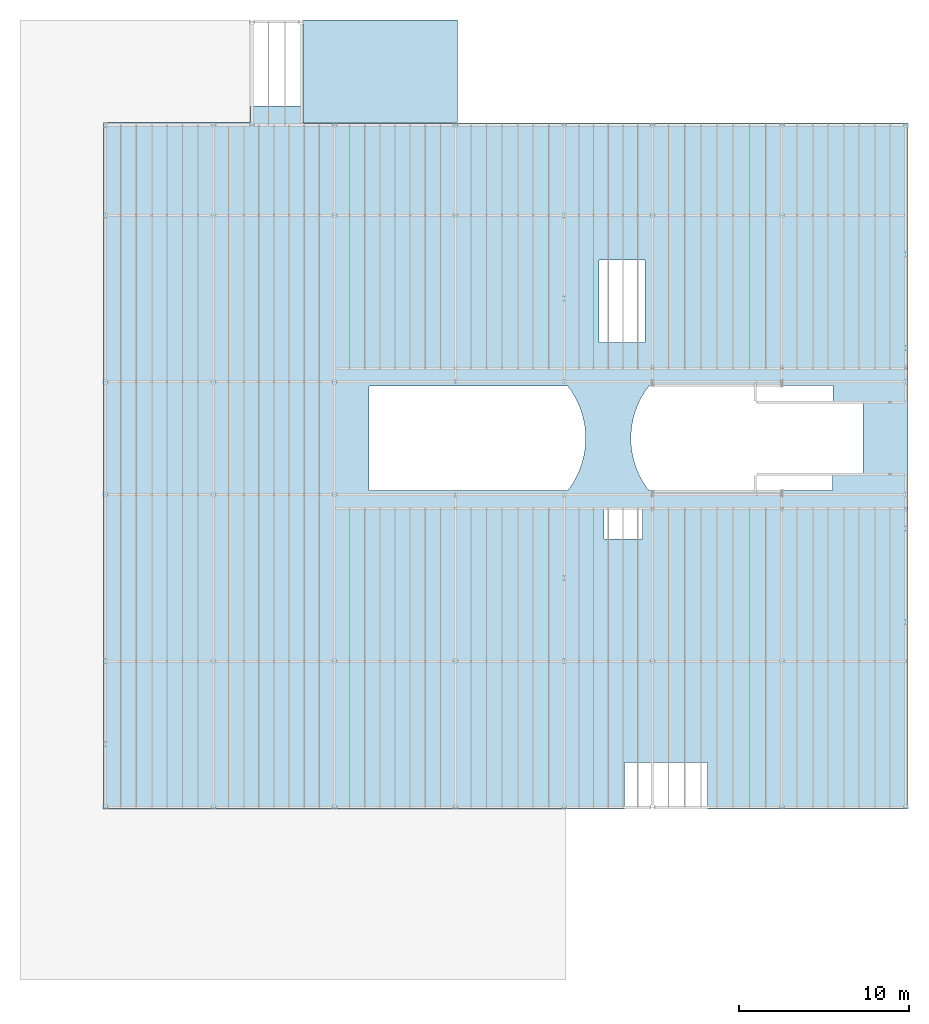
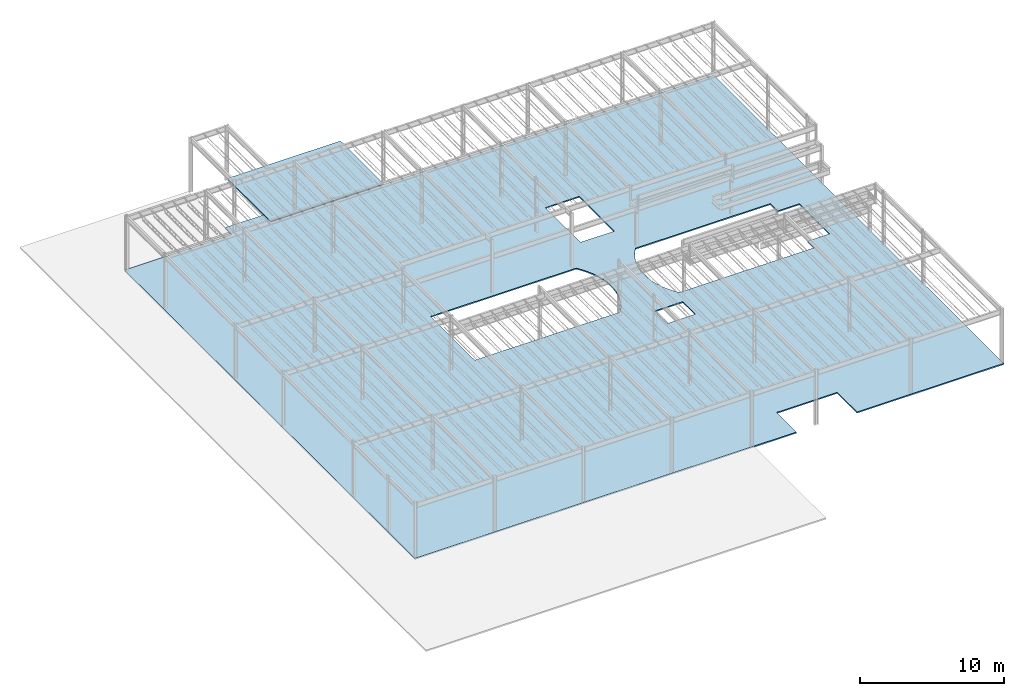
# One storey, part 19 of 119: 2 slabs, 4 openings, 1 element without a shape of its own.
"""IFC2X3 building model written with IfcOpenShell, lengths in metres."""

import ifcopenshell
import ifcopenshell.guid

model = None  # the IFC model being written
_history = None  # IfcOwnerHistory: only IFC2X3 demands one
_inside = {}  # id of a spatial element -> (the spatial element, [elements in it])
_under = {}  # id of a project, library or spatial element -> (it, [spatial elements below it])
_declared = {}  # id of a project -> (the project, [libraries it declares])
_typed = {}  # id of a type object -> (the type object, [elements of that type])
_made_of = {}  # id of a material, layer set ... -> (it, [elements and type objects made of it])


def new_model(schema):
    """Start an empty IFC model of exactly this schema.

    Asked for "IFC4X3", IfcOpenShell would pick the latest addendum, in which some entities
    have other attributes; the version numbers below select the first issue.
    IFC2X3 requires an IfcOwnerHistory on every rooted entity: one is made here for all.
    """
    global model, _history
    if schema == "IFC4X3":
        model = ifcopenshell.file(schema_version=(4, 3, 0, 0))
    else:
        model = ifcopenshell.file(schema=schema)
    _inside.clear()
    _under.clear()
    _declared.clear()
    _typed.clear()
    _made_of.clear()
    _history = None
    if model.schema == "IFC2X3":
        org = make("IfcOrganization", Name="unknown")
        user = make(
            "IfcPersonAndOrganization",
            ThePerson=make("IfcPerson", FamilyName="unknown"),
            TheOrganization=org,
        )
        app = make(
            "IfcApplication",
            ApplicationDeveloper=org,
            Version="unknown",
            ApplicationFullName="unknown",
            ApplicationIdentifier="unknown",
        )
        _history = make(
            "IfcOwnerHistory",
            OwningUser=user,
            OwningApplication=app,
            ChangeAction="ADDED",
            CreationDate=0,
        )
    return model


def make(cls, **values):
    """One entity of the class cls with the attributes given. An attribute that is None is left unset."""
    return model.create_entity(
        cls, **{name: value for name, value in values.items() if value is not None}
    )


def entity(cls, *values):
    """Any entity or typed value of the class cls, its attributes in the order of the schema. None: left unset."""
    e = model.create_entity(cls)
    for i, value in enumerate(values):
        if value is not None:
            e[i] = value
    return e


def rooted(cls, **values):
    """An entity with a GlobalId (a new one), such as an element, a storey or a relation."""
    return make(cls, GlobalId=ifcopenshell.guid.new(), OwnerHistory=_history, **values)


def si_unit(unit_type, name, prefix=None):
    """IfcSIUnit, for example si_unit("LENGTHUNIT", "METRE", prefix="MILLI")."""
    return make("IfcSIUnit", UnitType=unit_type, Prefix=prefix, Name=name)


def converted_unit(unit_type, name, factor, base, dimensions=None, offset=None):
    """IfcConversionBasedUnit, such as the inch: factor (a typed value) times the base unit."""
    return make(
        "IfcConversionBasedUnit"
        if offset is None
        else "IfcConversionBasedUnitWithOffset",
        ConversionOffset=offset,
        Dimensions=None
        if dimensions is None
        else entity("IfcDimensionalExponents", *dimensions),
        UnitType=unit_type,
        Name=name,
        ConversionFactor=make(
            "IfcMeasureWithUnit", ValueComponent=factor, UnitComponent=base
        ),
    )


def assignment(units):
    """IfcUnitAssignment: the units of a project."""
    return None if units is None else make("IfcUnitAssignment", Units=units)


def point(xyz):
    """IfcCartesianPoint."""
    return None if xyz is None else make("IfcCartesianPoint", Coordinates=xyz)


def direction(xyz):
    """IfcDirection."""
    return None if xyz is None else make("IfcDirection", DirectionRatios=xyz)


def frame(location, z_axis=None, x_axis=None):
    """IfcAxis2Placement3D, a coordinate frame: its origin and axes. An axis left out is left unset."""
    return make(
        "IfcAxis2Placement3D",
        Location=point(location),
        Axis=direction(z_axis),
        RefDirection=direction(x_axis),
    )


def frame_2d(location, x_axis=None):
    """IfcAxis2Placement2D, a coordinate frame in the plane: its origin and x axis."""
    return make(
        "IfcAxis2Placement2D", Location=point(location), RefDirection=direction(x_axis)
    )


def origin():
    """The frame at (0, 0, 0) with its axes left unset."""
    return frame((0.0, 0.0, 0.0))


def origin_2d_with_axis():
    """The frame at (0, 0) in the plane with the x axis (1, 0) written out."""
    return frame_2d((0.0, 0.0), x_axis=(1.0, 0.0))


def place(relative_to, where):
    """IfcLocalPlacement: puts the frame where relative to a parent placement (None: the world)."""
    return make(
        "IfcLocalPlacement", PlacementRelTo=relative_to, RelativePlacement=where
    )


def context(
    kind, dimensions, precision=None, world=None, true_north=None, identifier=None
):
    """IfcGeometricRepresentationContext, for example the 3D "Model" context."""
    return make(
        "IfcGeometricRepresentationContext",
        ContextIdentifier=identifier,
        ContextType=kind,
        CoordinateSpaceDimension=dimensions,
        Precision=precision,
        WorldCoordinateSystem=world,
        TrueNorth=true_north,
    )


def project(units=None, contexts=None):
    """IfcProject with its units and contexts."""
    return rooted(
        "IfcProject",
        Name="project",
        RepresentationContexts=contexts,
        UnitsInContext=assignment(units),
    )


def spatial(cls, under=None, at=None, **own):
    """A site, building, storey or space (cls), placed at a placement, below another one or the project."""
    s = rooted(cls, ObjectPlacement=at, **own)
    if under is not None:
        _under.setdefault(under.id(), (under, []))[1].append(s)
    return s


def polyline(points):
    """IfcPolyline through the points."""
    return make("IfcPolyline", Points=[point(p) for p in points])


def circle_curve(where, radius):
    """IfcCircle in the frame where."""
    return make("IfcCircle", Position=where, Radius=radius)


def parameter(value):
    """IfcParameterValue: where a trimmed curve begins or ends, as a parameter of its basis curve."""
    return model.create_entity("IfcParameterValue", value)


def trimmed(basis, trim1, trim2, sense, master):
    """IfcTrimmedCurve: the piece of a basis curve between two trims."""
    return make(
        "IfcTrimmedCurve",
        BasisCurve=basis,
        Trim1=trim1,
        Trim2=trim2,
        SenseAgreement=sense,
        MasterRepresentation=master,
    )


def segment(curve, same_sense, transition):
    """IfcCompositeCurveSegment."""
    return make(
        "IfcCompositeCurveSegment",
        Transition=transition,
        SameSense=same_sense,
        ParentCurve=curve,
    )


def composite_curve(segments, self_intersect=None):
    """IfcCompositeCurve: segments joined end to end."""
    return make("IfcCompositeCurve", Segments=segments, SelfIntersect=self_intersect)


def profile(cls, at=None, kind="AREA", **sizes):
    """A parametric profile (cls). Its sizes go by their IFC names, for example OverallWidth=200.0."""
    return make(cls, ProfileType=kind, Position=at, **sizes)


def rectangle(**sizes):
    """IfcRectangleProfileDef."""
    return profile("IfcRectangleProfileDef", **sizes)


def outline(outer, holes=None, kind="AREA"):
    """IfcArbitraryClosedProfileDef: a profile drawn as a closed curve; with holes, ...WithVoids."""
    if holes is None:
        return make("IfcArbitraryClosedProfileDef", ProfileType=kind, OuterCurve=outer)
    return make(
        "IfcArbitraryProfileDefWithVoids",
        ProfileType=kind,
        OuterCurve=outer,
        InnerCurves=holes,
    )


def extrude(swept, where, along, depth):
    """IfcExtrudedAreaSolid: the profile swept, set in the frame where, extruded along a direction by depth."""
    return make(
        "IfcExtrudedAreaSolid",
        SweptArea=swept,
        Position=where,
        ExtrudedDirection=direction(along),
        Depth=depth,
    )


def shape(context_of_items, identifier, shape_type, items):
    """IfcShapeRepresentation: the items that make up one representation, for example the "Body"."""
    return make(
        "IfcShapeRepresentation",
        ContextOfItems=context_of_items,
        RepresentationIdentifier=identifier,
        RepresentationType=shape_type,
        Items=items,
    )


def material(Name=None, Category=None):
    """IfcMaterial."""
    return make("IfcMaterial", Name=Name, Category=Category)


def layer(
    of_material, thickness, ventilated=None, Name=None, Category=None, Priority=None
):
    """IfcMaterialLayer: one layer of a wall or slab, of a material (None: an air gap)."""
    return make(
        "IfcMaterialLayer",
        Material=of_material,
        LayerThickness=thickness,
        IsVentilated=ventilated,
        Name=Name,
        Category=Category,
        Priority=Priority,
    )


def layer_set(layers, Name=None):
    """IfcMaterialLayerSet."""
    return make("IfcMaterialLayerSet", MaterialLayers=layers, LayerSetName=Name)


def layer_usage(for_layer_set, set_direction, sense, offset, extent=None):
    """IfcMaterialLayerSetUsage: how a layer set lies in its element."""
    return make(
        "IfcMaterialLayerSetUsage",
        ForLayerSet=for_layer_set,
        LayerSetDirection=set_direction,
        DirectionSense=sense,
        OffsetFromReferenceLine=offset,
        ReferenceExtent=extent,
    )


def made_of(thing, what):
    """Note that an element or type object is made of a material, layer set ...; save() writes the relation."""
    if what is not None:
        _made_of.setdefault(what.id(), (what, []))[1].append(thing)
    return thing


def element(
    cls,
    number,
    at=None,
    inside=None,
    cuts=None,
    type_object=None,
    material=None,
    context=None,
    identifier="Body",
    shape_type=None,
    held_by="IfcProductDefinitionShape",
    body=None,
    shapes=None,
    **own,
):
    """One element of the class cls, such as IfcWall. Its Tag is "e" and its number.

    at: its placement. inside: the storey or other place that contains it. cuts: it is an
    opening in that element (IfcRelVoidsElement). A single representation is given by context,
    identifier, shape_type and body (its items); several are given by shapes. held_by: the class
    of the entity that holds the representations. save() writes the other relations.
    """
    e = rooted(cls, Tag="e%d" % number, ObjectPlacement=at, **own)
    if body is not None:
        shapes = [shape(context, identifier, shape_type, body)]
    if shapes is not None:
        e.Representation = make(held_by, Representations=shapes)
    if inside is not None:
        _inside.setdefault(inside.id(), (inside, []))[1].append(e)
    if cuts is not None:
        rooted(
            "IfcRelVoidsElement", RelatingBuildingElement=cuts, RelatedOpeningElement=e
        )
    if type_object is not None:
        _typed.setdefault(type_object.id(), (type_object, []))[1].append(e)
    return made_of(e, material)


def aggregate(whole, parts):
    """IfcRelAggregates: a whole, such as a stair, and the parts it consists of."""
    return rooted("IfcRelAggregates", RelatingObject=whole, RelatedObjects=parts)


def save(model, path):
    """Write the relations noted so far, then the file.

    IfcRelAggregates (storeys below a building ...), IfcRelContainedInSpatialStructure (elements
    in a storey), IfcRelDefinesByType, IfcRelAssociatesMaterial and IfcRelDeclares: one each for
    every whole, place, type object, material and project.
    """
    for whole, parts in _under.values():
        aggregate(whole, parts)
    for where, things in _inside.values():
        rooted(
            "IfcRelContainedInSpatialStructure",
            RelatedElements=things,
            RelatingStructure=where,
        )
    for kind, things in _typed.values():
        rooted("IfcRelDefinesByType", RelatedObjects=things, RelatingType=kind)
    for what, things in _made_of.values():
        rooted("IfcRelAssociatesMaterial", RelatedObjects=things, RelatingMaterial=what)
    for by, libraries in _declared.values():
        rooted("IfcRelDeclares", RelatingContext=by, RelatedDefinitions=libraries)
    model.write(path)


model = new_model("IFC2X3")

# Units and contexts
model_context = context("Model", 3, precision=1e-09, world=origin())
plan_context = context("Plan", 3, precision=1e-09, world=origin())
ifc_project = project(units=[si_unit("LENGTHUNIT", "METRE"), si_unit("AREAUNIT", "SQUARE_METRE"), si_unit("VOLUMEUNIT", "CUBIC_METRE"), converted_unit("PLANEANGLEUNIT", "DEGREE", entity("IfcRatioMeasure", 0.01745329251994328), si_unit("PLANEANGLEUNIT", "RADIAN"), dimensions=[0, 0, 0, 0, 0, 0, 0]), si_unit("TIMEUNIT", "SECOND")], contexts=[model_context, plan_context])

# Site, building, storey
site_placement = place(None, origin())
site = spatial("IfcSite", under=ifc_project, at=site_placement, Name="Default", CompositionType="ELEMENT")
building_placement = place(site_placement, origin())
building = spatial("IfcBuilding", under=site, at=building_placement, CompositionType="ELEMENT")
storey_placement = place(building_placement, frame((0.0, 0.0, 4.570000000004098)))
storey = spatial("IfcBuildingStorey", under=building, at=storey_placement, Name="Second Floor", CompositionType="ELEMENT", Elevation=4.570000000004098)

# Slab, openings
ifc_material_1 = material(Name="Concrete - Cast in Situ Lightweight")
ifc_layer_1 = layer(ifc_material_1, 0.064)
ifc_material_2 = material(Name="Metal - Decking")
ifc_layer_2 = layer(ifc_material_2, 0.038)
ifc_layer_set_1 = layer_set([ifc_layer_1, ifc_layer_2], Name="Floor:64mm Concrete With 38mm Metal Deck")
ifc_layer_usage_1 = layer_usage(ifc_layer_set_1, "AXIS3", "POSITIVE", 0.0)
slab_1_placement = place(storey_placement, frame((-47.11300000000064, 9.92699999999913, -0.1020000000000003)))
slab_1 = element("IfcSlab", 1, at=slab_1_placement, inside=storey, material=ifc_layer_usage_1, Name="Floor:64mm Concrete With 38mm Metal Deck", ObjectType="Floor:64mm Concrete With 38mm Metal Deck", PredefinedType="FLOOR", context=model_context, shape_type="SweptSolid", body=[
    extrude(outline(polyline([(-23.61300000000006, 19.64228096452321), (-23.613, -20.63371903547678), (-11.84200014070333, -20.63371903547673), (-11.84200014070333, -17.8887190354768), (-6.986000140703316, -17.8887190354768), (-6.986000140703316, -20.63371903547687), (23.613, -20.63371903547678), (23.613, 19.67671967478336), (15.0, 19.67671967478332), (15.0, 20.63371903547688), (11.84973888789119, 20.63371903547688), (11.84973888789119, 19.64228096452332), (-23.61300000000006, 19.64228096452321)])), frame((23.613, 20.63371903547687, 0.1020000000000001), z_axis=(0.0, 0.0, -1.0), x_axis=(-1.0, 0.0, 0.0)), (0.0, 0.0, 1.0), 0.1020000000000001),
])
opening_1_placement = place(slab_1_placement, frame((21.43376995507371, 21.76639725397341, 0.1019999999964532)))
element("IfcOpeningElement", 2, at=opening_1_placement, cuts=slab_1, Name="Floor:64mm Concrete With 38mm Metal Deck:2", ObjectType="Opening", context=model_context, shape_type="SweptSolid", body=[
    extrude(outline(composite_curve([segment(trimmed(circle_curve(frame_2d((1.871406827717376, 0.0), x_axis=(1.0, 0.0)), 5.004868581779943), [parameter(322.2886442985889)], [parameter(37.7113557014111)], True, "PARAMETER"), True, "CONTINUOUS"), segment(polyline([(5.83076995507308, 3.061397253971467), (-5.830769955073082, 3.061397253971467)]), True, "CONTINUOUS"), segment(polyline([(-5.830769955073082, 3.061397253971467), (-5.830769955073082, -3.061397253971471)]), True, "CONTINUOUS"), segment(polyline([(-5.830769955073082, -3.061397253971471), (5.83076995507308, -3.061397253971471)]), True, "CONTINUOUS")], self_intersect=False)), frame((0.0, 0.0, 0.0), z_axis=(0.0, 0.0, -1.0), x_axis=(1.0, 0.0, 0.0)), (0.0, 0.0, 1.0), 0.1020000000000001),
])
opening_2_placement = place(slab_1_placement, frame((30.52540000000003, 16.73765000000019, 0.1020000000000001)))
element("IfcOpeningElement", 3, at=opening_2_placement, cuts=slab_1, Name="Floor:64mm Concrete With 38mm Metal Deck:5", ObjectType="Opening", context=model_context, shape_type="SweptSolid", body=[
    extrude(rectangle(XDim=1.74650000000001, YDim=2.267199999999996, at=origin_2d_with_axis()), frame((0.0, 0.0, 0.0), z_axis=(0.0, 0.0, -1.0), x_axis=(0.0, -1.0, 0.0)), (0.0, 0.0, 1.0), 0.1020000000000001),
])
opening_3_placement = place(slab_1_placement, frame((30.45050000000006, 29.81700069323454, 0.1019999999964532)))
element("IfcOpeningElement", 4, at=opening_3_placement, cuts=slab_1, Name="Floor:64mm Concrete With 38mm Metal Deck:4", ObjectType="Opening", context=model_context, shape_type="SweptSolid", body=[
    extrude(rectangle(XDim=4.856000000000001, YDim=2.716999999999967, at=origin_2d_with_axis()), frame((0.0, 0.0, 0.0), z_axis=(0.0, 0.0, -1.0), x_axis=(0.0, -1.0, 0.0)), (0.0, 0.0, 1.0), 0.1020000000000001),
])
opening_4_placement = place(slab_1_placement, frame((40.56745101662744, 21.75710967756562, 0.1019999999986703)))
element("IfcOpeningElement", 5, at=opening_4_placement, cuts=slab_1, Name="Floor:64mm Concrete With 38mm Metal Deck:3", ObjectType="Opening", context=model_context, shape_type="SweptSolid", body=[
    extrude(outline(composite_curve([segment(trimmed(circle_curve(frame_2d((-4.605985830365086, -0.009287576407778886), x_axis=(1.0, 0.0)), 4.989497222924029), [parameter(142.1520371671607)], [parameter(218.2154290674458)], True, "PARAMETER"), True, "CONTINUOUS"), segment(polyline([(-8.52618557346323, -3.095890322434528), (2.275548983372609, -3.095890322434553)]), True, "CONTINUOUS"), segment(polyline([(2.275548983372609, -3.095890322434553), (2.275548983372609, -2.069890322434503)]), True, "CONTINUOUS"), segment(polyline([(2.275548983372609, -2.069890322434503), (4.018945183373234, -2.0698903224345)]), True, "CONTINUOUS"), segment(polyline([(4.018945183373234, -2.0698903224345), (4.018945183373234, 2.113670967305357)]), True, "CONTINUOUS"), segment(polyline([(4.018945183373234, 2.113670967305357), (2.241548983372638, 2.113670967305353)]), True, "CONTINUOUS"), segment(polyline([(2.241548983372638, 2.113670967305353), (2.241548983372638, 3.052109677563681)]), True, "CONTINUOUS"), segment(polyline([(2.241548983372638, 3.052109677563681), (-8.545900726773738, 3.052109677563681)]), True, "CONTINUOUS")], self_intersect=False)), frame((0.0, 0.0, 0.0), z_axis=(0.0, 0.0, -1.0), x_axis=(1.0, 0.0, 0.0)), (0.0, 0.0, 1.0), 0.1020000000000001),
])

# Roof, slab
ifc_material_3 = material(Name="Roofing - EPDM Membrane")
ifc_layer_3 = layer(ifc_material_3, 0.006)
ifc_material_4 = material(Name="Insulation / Thermal Barriers - Rigid insulation")
ifc_layer_4 = layer(ifc_material_4, 0.076)
ifc_layer_5 = layer(ifc_material_2, 0.038)
ifc_layer_set_2 = layer_set([ifc_layer_3, ifc_layer_4, ifc_layer_5], Name="Basic Roof:EPDM Membrane on Rigid Insul on Metal Deck")
ifc_layer_usage_2 = layer_usage(ifc_layer_set_2, "AXIS3", "NEGATIVE", 0.0)
roof_placement = place(storey_placement, origin())
roof = element("IfcRoof", 6, at=roof_placement, inside=storey, material=ifc_layer_usage_2, Name="Basic Roof:EPDM Membrane on Rigid Insul on Metal Deck", ObjectType="Basic Roof:EPDM Membrane on Rigid Insul on Metal Deck", ShapeType="NOTDEFINED")
slab_2_placement = place(roof_placement, frame((-35.39700000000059, 50.23643871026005, -0.1020000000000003)))
slab_2 = element("IfcSlab", 7, at=slab_2_placement, Name="Basic Roof:EPDM Membrane on Rigid Insul on Metal Deck", ObjectType="Basic Roof:EPDM Membrane on Rigid Insul on Metal Deck", PredefinedType="ROOF", context=model_context, shape_type="SweptSolid", body=[
    extrude(rectangle(XDim=9.069999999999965, YDim=6.016561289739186, at=origin_2d_with_axis()), frame((4.534999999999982, 3.008280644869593, 0.0)), (0.0, 0.0, 1.0), 0.1199999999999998),
])
aggregate(roof, [slab_2])

save(model, "model.ifc")
